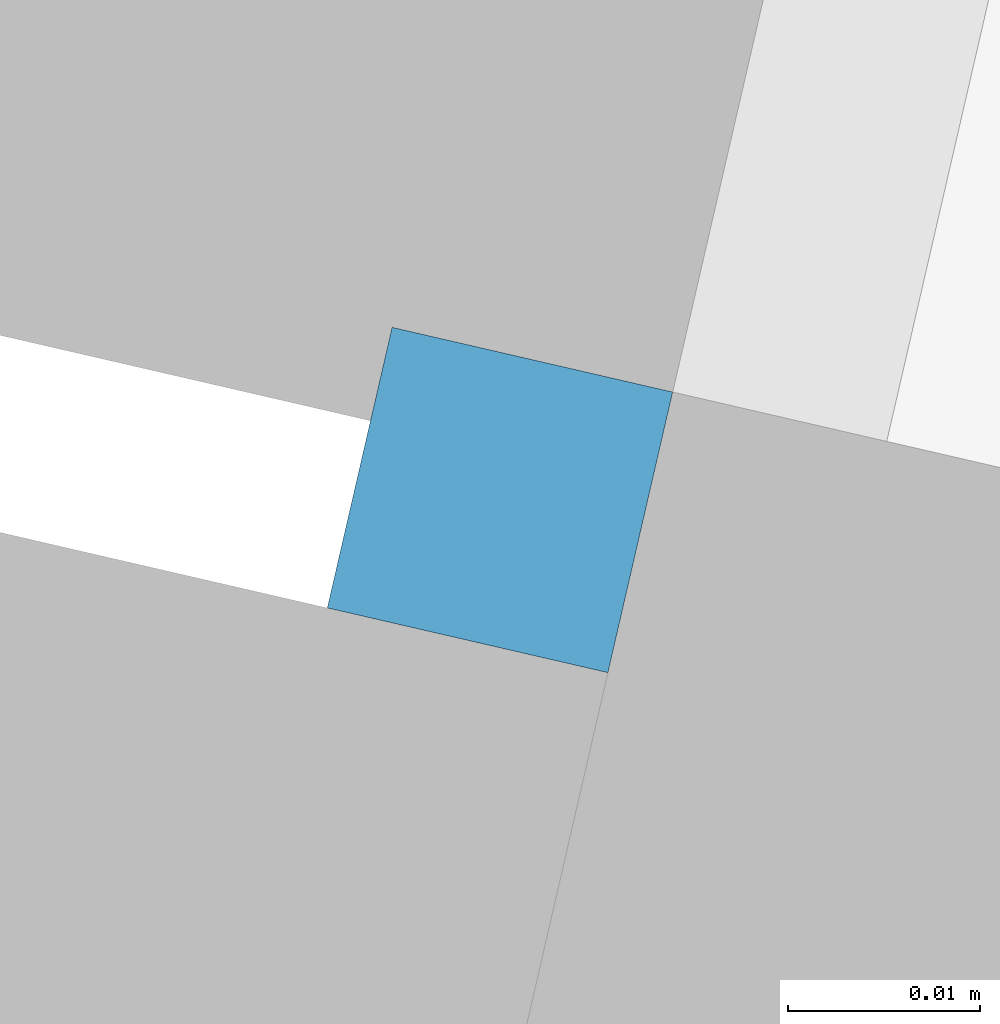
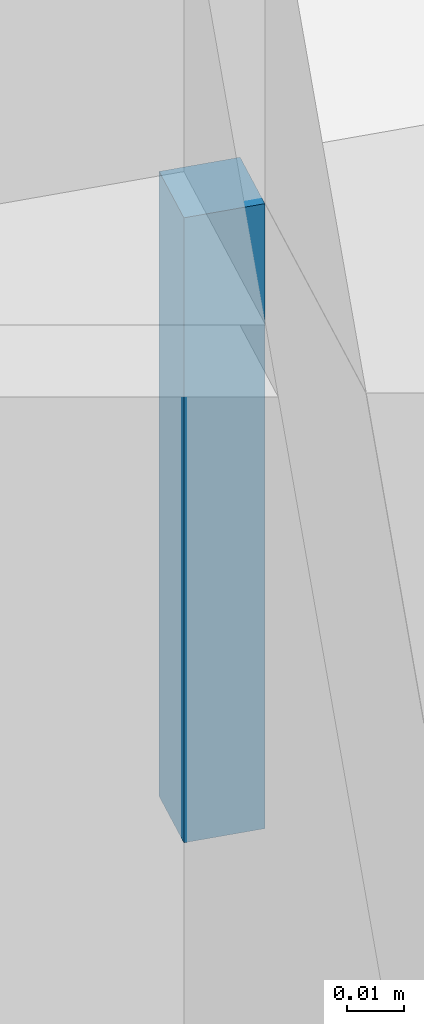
# One storey, part 65 of 119: 1 wall.
"""IFC2X3 building model written with IfcOpenShell, lengths in metres."""

from ifc_helpers import new_model, entity, si_unit, converted_unit, derived_unit, money_unit, direction, frame, origin_with_axes, place, context, subcontext, project, spatial, faceted_brep, material, type_object, element, save


model = new_model("IFC2X3")

# Units and contexts
model_context = context("Model", 3, precision=1e-05, world=origin_with_axes(), true_north=direction((0.0, 1.0)))
body_context = subcontext(model_context, "Body", "Model", "MODEL_VIEW")
ifc_project = project(units=[si_unit("LENGTHUNIT", "METRE"), si_unit("AREAUNIT", "SQUARE_METRE"), si_unit("VOLUMEUNIT", "CUBIC_METRE"), converted_unit("PLANEANGLEUNIT", "DEGREE", entity("IfcPlaneAngleMeasure", 0.0174532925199), si_unit("PLANEANGLEUNIT", "RADIAN"), dimensions=[0, 0, 0, 0, 0, 0, 0]), si_unit("SOLIDANGLEUNIT", "STERADIAN"), money_unit("EUR"), converted_unit("TIMEUNIT", "Year", entity("IfcTimeMeasure", 31556926.0), si_unit("TIMEUNIT", "SECOND"), dimensions=[0, 0, 1, 0, 0, 0, 0]), si_unit("MASSUNIT", "GRAM", prefix="KILO"), si_unit("THERMODYNAMICTEMPERATUREUNIT", "DEGREE_CELSIUS"), si_unit("LUMINOUSINTENSITYUNIT", "LUMEN"), si_unit("ENERGYUNIT", "JOULE", prefix="MEGA"), derived_unit("THERMALCONDUCTANCEUNIT", [(si_unit("POWERUNIT", "WATT"), 1), (si_unit("LENGTHUNIT", "METRE"), -1), (si_unit("THERMODYNAMICTEMPERATUREUNIT", "KELVIN"), -1)]), derived_unit("SPECIFICHEATCAPACITYUNIT", [(si_unit("ENERGYUNIT", "JOULE"), 1), (si_unit("MASSUNIT", "GRAM", prefix="KILO"), -1), (si_unit("THERMODYNAMICTEMPERATUREUNIT", "KELVIN"), -1)]), derived_unit("MASSDENSITYUNIT", [(si_unit("MASSUNIT", "GRAM", prefix="KILO"), 1), (si_unit("VOLUMEUNIT", "CUBIC_METRE"), -1)])], contexts=[model_context])

# Site, building, storey
site_placement = place(None, origin_with_axes())
site = spatial("IfcSite", under=ifc_project, at=site_placement, Name="Site", CompositionType="ELEMENT")
building_placement = place(site_placement, origin_with_axes())
building = spatial("IfcBuilding", under=site, at=building_placement, Name="Bâtiment", CompositionType="ELEMENT")
storey_placement = place(building_placement, origin_with_axes())
storey = spatial("IfcBuildingStorey", under=building, at=storey_placement, Name="Rez-de-chaussée", CompositionType="ELEMENT", Elevation=0.0)

# Wall
ifc_material = material(Name="Finition ext - Crépis")
wall_type = type_object("IfcWallType", Name="Finition ext - Crépis 15", PredefinedType="USERDEFINED")
wall_placement = place(storey_placement, frame((-1.22070189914, 2.3895744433, 2.375), z_axis=(0.0, 0.0, 1.0), x_axis=(-0.974387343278, 0.22487619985, 0.0)))
element("IfcWall", 1, at=wall_placement, inside=storey, type_object=wall_type, material=ifc_material, Name="M_Ext-016", ObjectType="SOLIDWALL", context=body_context, shape_type="Brep", body=[
    faceted_brep([(0.855808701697, 0.0149992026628, 0.135), (0.870808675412, 0.015, 0.135), (0.870808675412, 0.015, 0.0), (0.855808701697, 0.0149992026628, 0.0), (0.855808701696, -7.97337244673e-07, 0.135), (0.870808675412, 0.0, 0.135), (0.870808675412, 0.0, 0.0), (0.855808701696, -7.97337244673e-07, 0.0)], [[[0, 1, 2, 3]], [[4, 5, 1, 0]], [[6, 2, 1, 5]], [[3, 2, 6, 7]], [[4, 0, 3, 7]], [[5, 4, 7, 6]]]),
])

save(model, "model.ifc")
